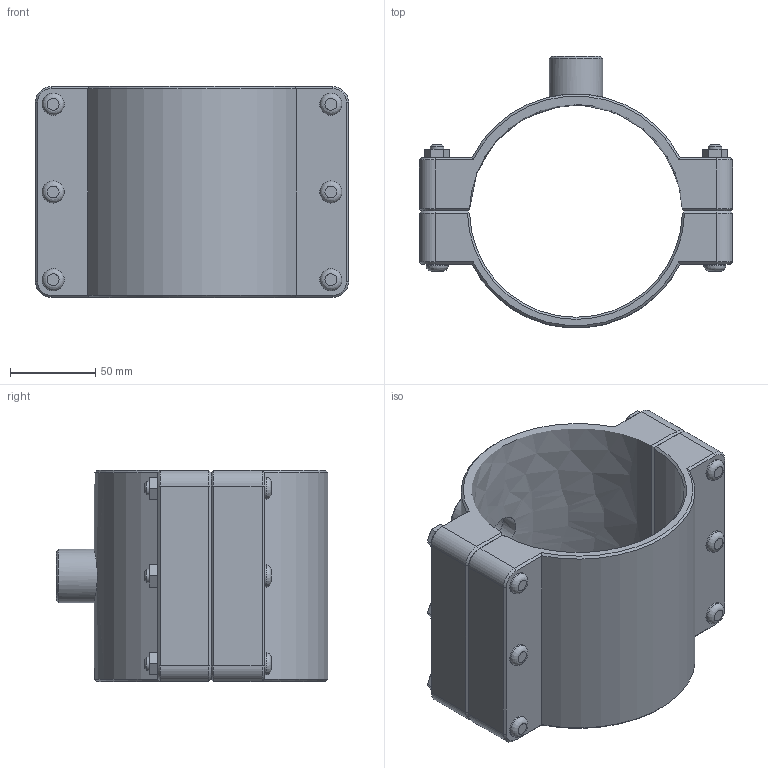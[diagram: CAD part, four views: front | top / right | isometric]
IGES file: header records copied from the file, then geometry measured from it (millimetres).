
Global section: file name: 160760125007_160860125007.ipt; native system: Autodesk Inventor 2015; preprocessor: unknown; author: KIM; date: 20170618.093546; units: millimetre
Bounding box: 184 x 159.5 x 124 mm (x, y, z)
Volume: 723889.2 mm3; surface area: 143910.5 mm2
Topology: 1 solids, 1 shells, 169 faces, 394 edges, 249 vertices
Faces by surface type: plane 100, cylinder 29, cone 27, revolution 13
Full cylindrical faces by diameter (mm): 8 x6, 13 x12, 31.352 x1
